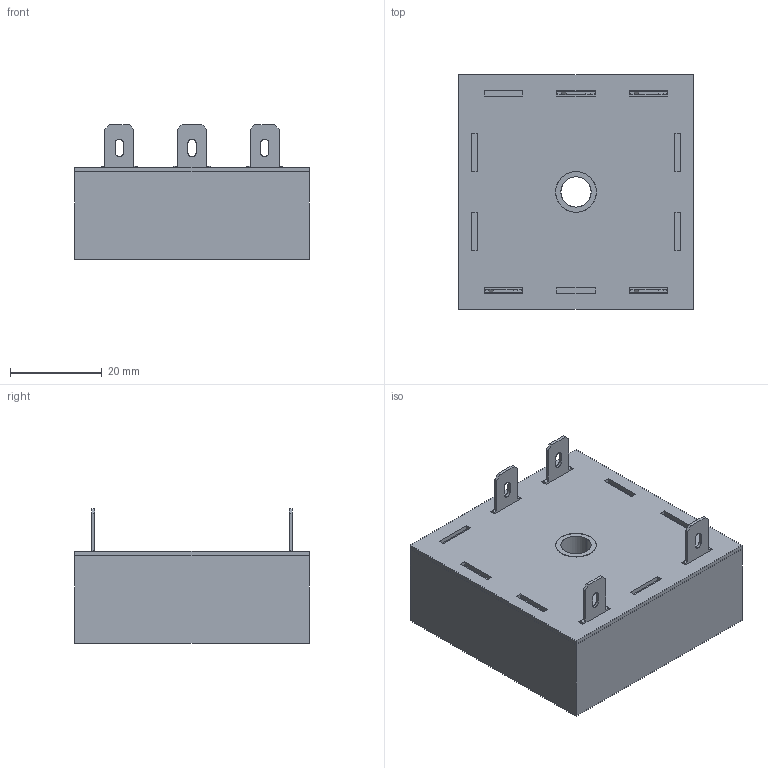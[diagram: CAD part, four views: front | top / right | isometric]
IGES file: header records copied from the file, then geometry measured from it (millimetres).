
Start section: SolidWorks IGES file using analytic representation for surfaces
Global section: file name: C:\Documents and Settings\Joshua\Desktop\eric\RT\THL\RT.IGS; native system: SolidWorks 2007; preprocessor: SolidWorks 2007; author: Joshua; date: 140205.202147; units: millimetre
Bounding box: 51.31 x 51.31 x 29.46 mm (x, y, z)
Surface area: 20888.8 mm2 (no closed solid volume)
Topology: 0 solids, 0 shells, 160 faces, 1296 edges, 1296 vertices
Faces by surface type: bspline 146, revolution 14
